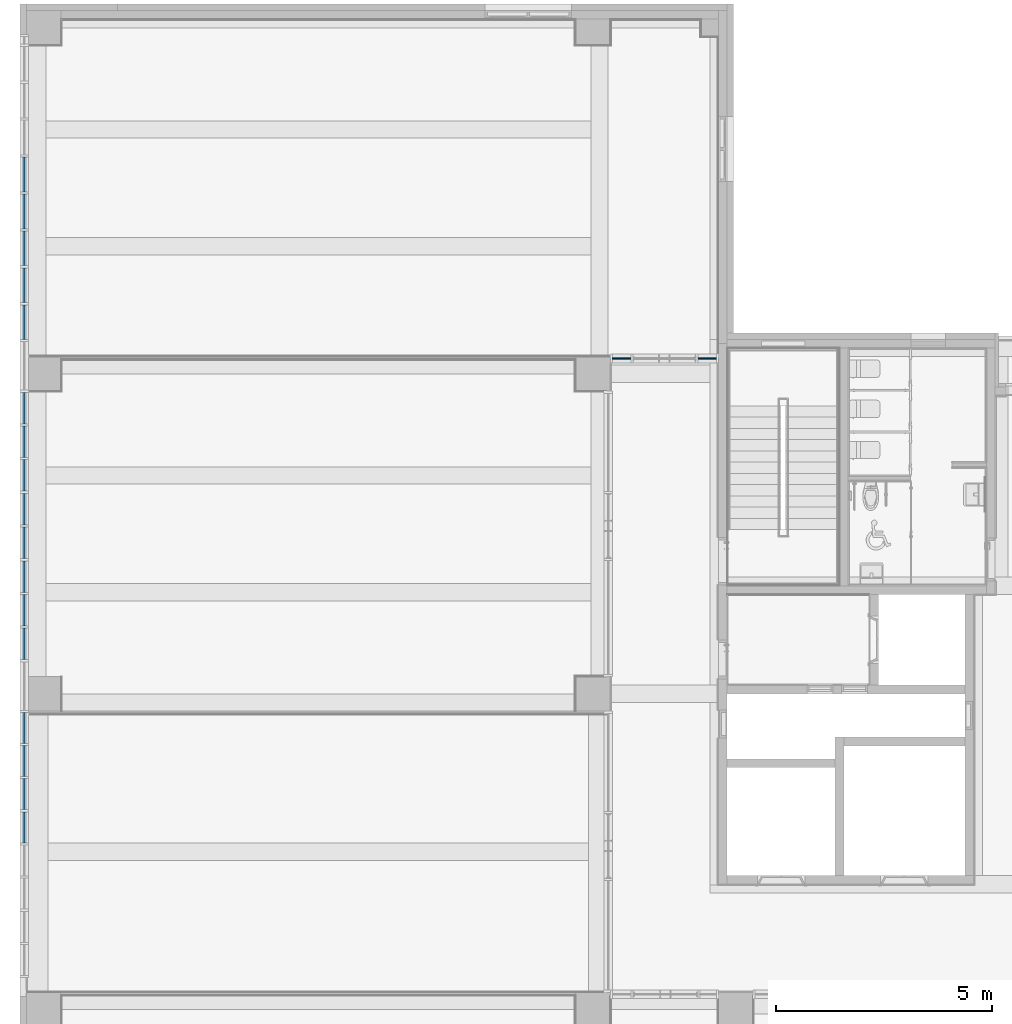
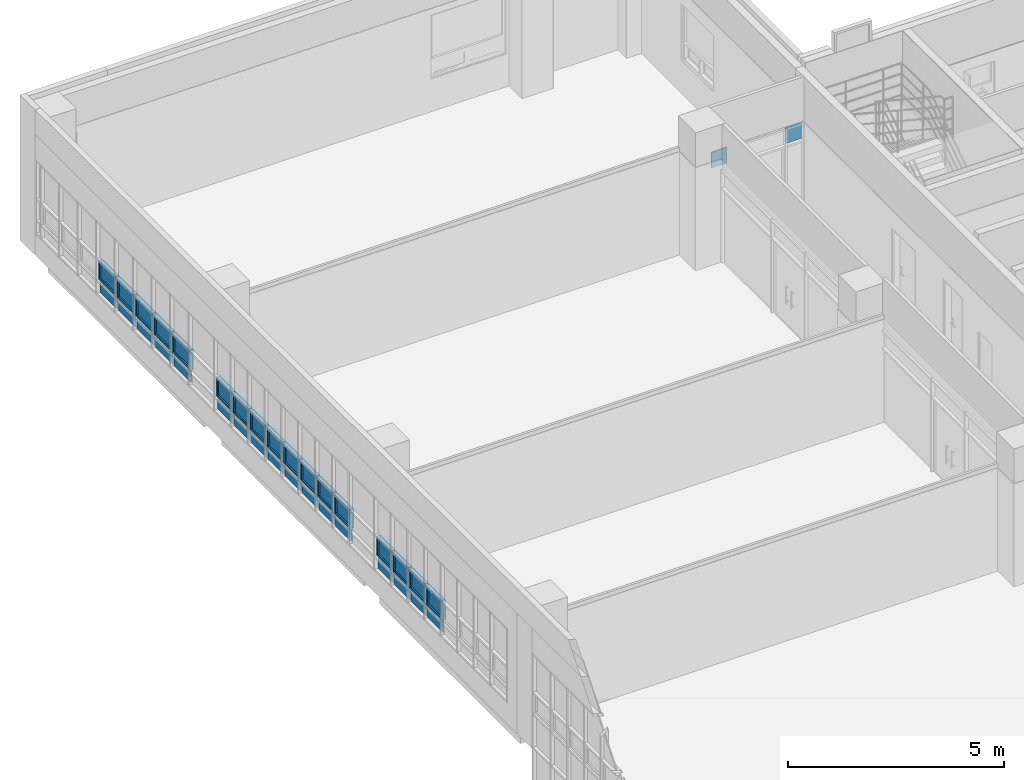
# One storey, part 37 of 81: 36 plates, 2 elements without a shape of their own.
"""IFC2X3 building model written with IfcOpenShell, lengths in millimetres."""

from ifc_helpers import new_model, entity, si_unit, converted_unit, derived_unit, direction, frame, origin, origin_2d_with_axis, place, context, subcontext, project, spatial, polyline, rectangle, outline, extrude, source, transform, mapped, material, material_list, type_object, type_shapes, element, aggregate, save


model = new_model("IFC2X3")

# Units and contexts
model_context = context("Model", 3, precision=0.01, world=origin(), true_north=direction((6.123031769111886e-17, 1.0)))
body_context = subcontext(model_context, "Body", "Model", "MODEL_VIEW")
ifc_project = project(units=[si_unit("LENGTHUNIT", "METRE", prefix="MILLI"), si_unit("AREAUNIT", "SQUARE_METRE"), si_unit("VOLUMEUNIT", "CUBIC_METRE"), converted_unit("PLANEANGLEUNIT", "DEGREE", entity("IfcRatioMeasure", 0.017453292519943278), si_unit("PLANEANGLEUNIT", "RADIAN"), dimensions=[0, 0, 0, 0, 0, 0, 0]), si_unit("MASSUNIT", "GRAM", prefix="KILO"), derived_unit("MASSDENSITYUNIT", [(si_unit("MASSUNIT", "GRAM", prefix="KILO"), 1), (si_unit("LENGTHUNIT", "METRE"), -3)]), derived_unit("MOMENTOFINERTIAUNIT", [(si_unit("LENGTHUNIT", "METRE"), 4)]), si_unit("TIMEUNIT", "SECOND"), si_unit("FREQUENCYUNIT", "HERTZ"), si_unit("THERMODYNAMICTEMPERATUREUNIT", "DEGREE_CELSIUS"), derived_unit("THERMALTRANSMITTANCEUNIT", [(si_unit("MASSUNIT", "GRAM", prefix="KILO"), 1), (si_unit("THERMODYNAMICTEMPERATUREUNIT", "KELVIN"), -1), (si_unit("TIMEUNIT", "SECOND"), -3)]), derived_unit("VOLUMETRICFLOWRATEUNIT", [(si_unit("LENGTHUNIT", "METRE"), 3), (si_unit("TIMEUNIT", "SECOND"), -1)]), derived_unit("MASSFLOWRATEUNIT", [(si_unit("MASSUNIT", "GRAM", prefix="KILO"), 1), (si_unit("TIMEUNIT", "SECOND"), -1)]), derived_unit("ROTATIONALFREQUENCYUNIT", [(si_unit("TIMEUNIT", "SECOND"), -1)]), si_unit("ELECTRICCURRENTUNIT", "AMPERE"), si_unit("ELECTRICVOLTAGEUNIT", "VOLT"), si_unit("POWERUNIT", "WATT"), si_unit("FORCEUNIT", "NEWTON", prefix="KILO"), si_unit("ILLUMINANCEUNIT", "LUX"), si_unit("LUMINOUSFLUXUNIT", "LUMEN"), si_unit("LUMINOUSINTENSITYUNIT", "CANDELA"), derived_unit("USERDEFINED", [(si_unit("MASSUNIT", "GRAM", prefix="KILO"), -1), (si_unit("LENGTHUNIT", "METRE"), -2), (si_unit("TIMEUNIT", "SECOND"), 3), (si_unit("LUMINOUSFLUXUNIT", "LUMEN"), 1)]), derived_unit("SOUNDPOWERUNIT", [(si_unit("MASSUNIT", "GRAM", prefix="KILO"), 1), (si_unit("LENGTHUNIT", "METRE"), 2), (si_unit("TIMEUNIT", "SECOND"), -3)]), derived_unit("SOUNDPRESSUREUNIT", [(si_unit("MASSUNIT", "GRAM", prefix="KILO"), 1), (si_unit("LENGTHUNIT", "METRE"), -1), (si_unit("TIMEUNIT", "SECOND"), -2)]), derived_unit("LINEARVELOCITYUNIT", [(si_unit("LENGTHUNIT", "METRE"), 1), (si_unit("TIMEUNIT", "SECOND"), -1)]), si_unit("PRESSUREUNIT", "PASCAL"), derived_unit("USERDEFINED", [(si_unit("LENGTHUNIT", "METRE"), -2), (si_unit("MASSUNIT", "GRAM", prefix="KILO"), 1), (si_unit("TIMEUNIT", "SECOND"), -2)]), derived_unit("LINEARFORCEUNIT", [(si_unit("MASSUNIT", "GRAM", prefix="KILO"), 1), (si_unit("LENGTHUNIT", "METRE"), 1), (si_unit("TIMEUNIT", "SECOND"), -2), (si_unit("LENGTHUNIT", "METRE"), -1)]), derived_unit("PLANARFORCEUNIT", [(si_unit("MASSUNIT", "GRAM", prefix="KILO"), 1), (si_unit("LENGTHUNIT", "METRE"), 1), (si_unit("TIMEUNIT", "SECOND"), -2), (si_unit("LENGTHUNIT", "METRE"), -2)])], contexts=[model_context])

# Site, building, storey
site_placement = place(None, frame((-14167.972527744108, -657.2125860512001, 0.0)))
site = spatial("IfcSite", under=ifc_project, at=site_placement, Name="Default", CompositionType="ELEMENT")
building_placement = place(site_placement, origin())
building = spatial("IfcBuilding", under=site, at=building_placement, Name="Sample Building", CompositionType="ELEMENT")
storey_placement = place(building_placement, frame((0.0, 0.0, 13400.0)))
storey = spatial("IfcBuildingStorey", under=building, at=storey_placement, Name="지상 4층", CompositionType="ELEMENT", Elevation=13400.00000000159)

# Curtain wall, plates
curtain_wall_type = type_object("IfcCurtainWallType", Name="커튼월:CW112-스테인리스 스틸 커튼월", PredefinedType="NOTDEFINED")
curtain_wall_1_placement = place(storey_placement, frame((0.0, 0.0, -13400.0)))
curtain_wall_1 = element("IfcCurtainWall", 1, at=curtain_wall_1_placement, inside=storey, type_object=curtain_wall_type, Name="커튼월:CW112-스테인리스 스틸 커튼월", ObjectType="커튼월:CW112-스테인리스 스틸 커튼월")
ifc_material_1 = material(Name="KBIMS-유리")
ifc_material_2 = material(Name="KBIMS-알루미늄")
ifc_material_list_1 = material_list([ifc_material_1, ifc_material_2])
ifc_material_list_2 = material_list([ifc_material_1, ifc_material_2])
plate_type_1 = type_object("IfcPlateType", Name="CW410-프로젝트 창:CW410-프로젝트 창 (하부개폐)", PredefinedType="CURTAIN_PANEL", material=ifc_material_list_2)
shared_shape_1 = source(origin(), body_context, "Body", "SweptSolid", [
    extrude(rectangle(XDim=629.0000000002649, YDim=23.999999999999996, at=origin_2d_with_axis()), frame((0.0, -0.04999999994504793, 50.0), z_axis=(0.0, 0.0, 1.0), x_axis=(-1.0, 0.0, 0.0)), (0.0, 0.0, 1.0), 450.0000000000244),
    extrude(outline(polyline([(-364.5000000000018, -275.0), (364.5000000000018, -275.0), (364.5000000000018, 275.0), (-364.5000000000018, 275.0), (-364.5000000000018, -275.0)]), holes=[polyline([(-314.50000000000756, -225.0), (-314.5000000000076, 225.0), (314.5000000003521, 225.0), (314.50000000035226, -225.0), (-314.50000000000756, -225.0)])]), frame((0.0, -50.04999999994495, 275.0), z_axis=(0.0, 1.0, 0.0), x_axis=(1.0, 0.0, 0.0)), (0.0, 0.0, 1.0), 99.99999999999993),
])
type_shapes(plate_type_1, [shared_shape_1])
plate_1_placement = place(curtain_wall_1_placement, frame((14018.57055548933, 26566.317707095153, 14425.0), z_axis=(0.0, 0.0, 1.0), x_axis=(0.0, -1.0, 0.0)))
plate_1 = element("IfcPlate", 2, at=plate_1_placement, type_object=plate_type_1, material=ifc_material_list_1, Name="CW410-프로젝트 창:CW410-프로젝트 창 (하부개폐)", ObjectType="CW410-프로젝트 창:CW410-프로젝트 창 (하부개폐)", context=body_context, shape_type="MappedRepresentation", body=[
    mapped(shared_shape_1, transform((0.0, 0.0, 0.0), scale=1.0)),
])
ifc_material_list_3 = material_list([ifc_material_1, ifc_material_2])
plate_2_placement = place(curtain_wall_1_placement, frame((14018.57055548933, 25787.31770709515, 14425.0), z_axis=(0.0, 0.0, 1.0), x_axis=(0.0, -1.0, 0.0)))
plate_2 = element("IfcPlate", 3, at=plate_2_placement, type_object=plate_type_1, material=ifc_material_list_3, Name="CW410-프로젝트 창:CW410-프로젝트 창 (하부개폐)", ObjectType="CW410-프로젝트 창:CW410-프로젝트 창 (하부개폐)", context=body_context, shape_type="MappedRepresentation", body=[
    mapped(shared_shape_1, transform((0.0, 0.0, 0.0), scale=1.0)),
])
ifc_material_list_4 = material_list([ifc_material_1, ifc_material_2])
plate_3_placement = place(curtain_wall_1_placement, frame((14018.570555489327, 25008.317707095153, 14425.0), z_axis=(0.0, 0.0, 1.0), x_axis=(0.0, -1.0, 0.0)))
plate_3 = element("IfcPlate", 4, at=plate_3_placement, type_object=plate_type_1, material=ifc_material_list_4, Name="CW410-프로젝트 창:CW410-프로젝트 창 (하부개폐)", ObjectType="CW410-프로젝트 창:CW410-프로젝트 창 (하부개폐)", context=body_context, shape_type="MappedRepresentation", body=[
    mapped(shared_shape_1, transform((0.0, 0.0, 0.0), scale=1.0)),
])
ifc_material_list_5 = material_list([ifc_material_1, ifc_material_2])
plate_4_placement = place(curtain_wall_1_placement, frame((14018.570555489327, 24229.317707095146, 14425.0), z_axis=(0.0, 0.0, 1.0), x_axis=(0.0, -1.0, 0.0)))
plate_4 = element("IfcPlate", 5, at=plate_4_placement, type_object=plate_type_1, material=ifc_material_list_5, Name="CW410-프로젝트 창:CW410-프로젝트 창 (하부개폐)", ObjectType="CW410-프로젝트 창:CW410-프로젝트 창 (하부개폐)", context=body_context, shape_type="MappedRepresentation", body=[
    mapped(shared_shape_1, transform((0.0, 0.0, 0.0), scale=1.0)),
])
ifc_material_list_6 = material_list([ifc_material_1, ifc_material_2])
plate_5_placement = place(curtain_wall_1_placement, frame((14018.570555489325, 23450.31770709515, 14425.0), z_axis=(0.0, 0.0, 1.0), x_axis=(0.0, -1.0, 0.0)))
plate_5 = element("IfcPlate", 6, at=plate_5_placement, type_object=plate_type_1, material=ifc_material_list_6, Name="CW410-프로젝트 창:CW410-프로젝트 창 (하부개폐)", ObjectType="CW410-프로젝트 창:CW410-프로젝트 창 (하부개폐)", context=body_context, shape_type="MappedRepresentation", body=[
    mapped(shared_shape_1, transform((0.0, 0.0, 0.0), scale=1.0)),
])
ifc_material_list_7 = material_list([ifc_material_1, ifc_material_2])
plate_6_placement = place(curtain_wall_1_placement, frame((14018.570555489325, 22671.317707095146, 14425.0), z_axis=(0.0, 0.0, 1.0), x_axis=(0.0, -1.0, 0.0)))
plate_6 = element("IfcPlate", 7, at=plate_6_placement, type_object=plate_type_1, material=ifc_material_list_7, Name="CW410-프로젝트 창:CW410-프로젝트 창 (하부개폐)", ObjectType="CW410-프로젝트 창:CW410-프로젝트 창 (하부개폐)", context=body_context, shape_type="MappedRepresentation", body=[
    mapped(shared_shape_1, transform((0.0, 0.0, 0.0), scale=1.0)),
])
ifc_material_list_8 = material_list([ifc_material_1, ifc_material_2])
plate_7_placement = place(curtain_wall_1_placement, frame((14018.570555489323, 21892.31770709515, 14425.0), z_axis=(0.0, 0.0, 1.0), x_axis=(0.0, -1.0, 0.0)))
plate_7 = element("IfcPlate", 8, at=plate_7_placement, type_object=plate_type_1, material=ifc_material_list_8, Name="CW410-프로젝트 창:CW410-프로젝트 창 (하부개폐)", ObjectType="CW410-프로젝트 창:CW410-프로젝트 창 (하부개폐)", context=body_context, shape_type="MappedRepresentation", body=[
    mapped(shared_shape_1, transform((0.0, 0.0, 0.0), scale=1.0)),
])
ifc_material_list_9 = material_list([ifc_material_1, ifc_material_2])
plate_8_placement = place(curtain_wall_1_placement, frame((14018.570555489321, 21113.317707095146, 14425.0), z_axis=(0.0, 0.0, 1.0), x_axis=(0.0, -1.0, 0.0)))
plate_8 = element("IfcPlate", 9, at=plate_8_placement, type_object=plate_type_1, material=ifc_material_list_9, Name="CW410-프로젝트 창:CW410-프로젝트 창 (하부개폐)", ObjectType="CW410-프로젝트 창:CW410-프로젝트 창 (하부개폐)", context=body_context, shape_type="MappedRepresentation", body=[
    mapped(shared_shape_1, transform((0.0, 0.0, 0.0), scale=1.0)),
])
ifc_material_3 = material(Name="KBIMS-로이유리(코팅)")
plate_type_2 = type_object("IfcPlateType", Name="CW300-THK24.Low-e coating glass:CW300-THK24.Low-e coating glass", PredefinedType="CURTAIN_PANEL", material=ifc_material_3)
shared_shape_2 = source(origin(), body_context, "Body", "SweptSolid", [
    extrude(rectangle(XDim=803.5000000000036, YDim=24.000000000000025, at=origin_2d_with_axis()), frame((0.0, 0.0, 0.0), z_axis=(0.0, 0.0, 1.0), x_axis=(-1.0, 0.0, 0.0)), (0.0, 0.0, 1.0), 324.9999999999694),
])
type_shapes(plate_type_2, [shared_shape_2])
plate_9_placement = place(curtain_wall_1_placement, frame((14018.570555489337, 31966.56770709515, 14050.0), z_axis=(0.0, 0.0, 1.0), x_axis=(0.0, -1.0, 0.0)))
plate_9 = element("IfcPlate", 10, at=plate_9_placement, type_object=plate_type_2, material=ifc_material_3, Name="CW300-THK24.Low-e coating glass:CW300-THK24.Low-e coating glass", ObjectType="CW300-THK24.Low-e coating glass:CW300-THK24.Low-e coating glass", context=body_context, shape_type="MappedRepresentation", body=[
    mapped(shared_shape_2, transform((0.0, 0.0, 0.0), scale=1.0)),
])
plate_10_placement = place(curtain_wall_1_placement, frame((14018.570555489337, 31113.067707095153, 14050.0), z_axis=(0.0, 0.0, 1.0), x_axis=(0.0, -1.0, 0.0)))
plate_10 = element("IfcPlate", 11, at=plate_10_placement, type_object=plate_type_2, material=ifc_material_3, Name="CW300-THK24.Low-e coating glass:CW300-THK24.Low-e coating glass", ObjectType="CW300-THK24.Low-e coating glass:CW300-THK24.Low-e coating glass", context=body_context, shape_type="MappedRepresentation", body=[
    mapped(shared_shape_2, transform((0.0, 0.0, 0.0), scale=1.0)),
])
plate_11_placement = place(curtain_wall_1_placement, frame((14018.570555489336, 30259.56770709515, 14050.0), z_axis=(0.0, 0.0, 1.0), x_axis=(0.0, -1.0, 0.0)))
plate_11 = element("IfcPlate", 12, at=plate_11_placement, type_object=plate_type_2, material=ifc_material_3, Name="CW300-THK24.Low-e coating glass:CW300-THK24.Low-e coating glass", ObjectType="CW300-THK24.Low-e coating glass:CW300-THK24.Low-e coating glass", context=body_context, shape_type="MappedRepresentation", body=[
    mapped(shared_shape_2, transform((0.0, 0.0, 0.0), scale=1.0)),
])
plate_12_placement = place(curtain_wall_1_placement, frame((14018.570555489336, 29406.067707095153, 14050.0), z_axis=(0.0, 0.0, 1.0), x_axis=(0.0, -1.0, 0.0)))
plate_12 = element("IfcPlate", 13, at=plate_12_placement, type_object=plate_type_2, material=ifc_material_3, Name="CW300-THK24.Low-e coating glass:CW300-THK24.Low-e coating glass", ObjectType="CW300-THK24.Low-e coating glass:CW300-THK24.Low-e coating glass", context=body_context, shape_type="MappedRepresentation", body=[
    mapped(shared_shape_2, transform((0.0, 0.0, 0.0), scale=1.0)),
])
plate_13_placement = place(curtain_wall_1_placement, frame((14018.570555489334, 28552.567707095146, 14050.0), z_axis=(0.0, 0.0, 1.0), x_axis=(0.0, -1.0, 0.0)))
plate_13 = element("IfcPlate", 14, at=plate_13_placement, type_object=plate_type_2, material=ifc_material_3, Name="CW300-THK24.Low-e coating glass:CW300-THK24.Low-e coating glass", ObjectType="CW300-THK24.Low-e coating glass:CW300-THK24.Low-e coating glass", context=body_context, shape_type="MappedRepresentation", body=[
    mapped(shared_shape_2, transform((0.0, 0.0, 0.0), scale=1.0)),
])
plate_type_3 = type_object("IfcPlateType", Name="CW300-THK24.Low-e coating glass:CW300-THK24.Low-e coating glass", PredefinedType="CURTAIN_PANEL", material=ifc_material_3)
shared_shape_3 = source(origin(), body_context, "Body", "SweptSolid", [
    extrude(rectangle(XDim=729.0000000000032, YDim=24.000000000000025, at=origin_2d_with_axis()), frame((0.0, 0.0, 0.0), z_axis=(0.0, 0.0, 1.0), x_axis=(-1.0, 0.0, 0.0)), (0.0, 0.0, 1.0), 324.9999999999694),
])
type_shapes(plate_type_3, [shared_shape_3])
plate_14_placement = place(curtain_wall_1_placement, frame((14018.57055548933, 26566.317707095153, 14050.0), z_axis=(0.0, 0.0, 1.0), x_axis=(0.0, -1.0, 0.0)))
plate_14 = element("IfcPlate", 15, at=plate_14_placement, type_object=plate_type_3, material=ifc_material_3, Name="CW300-THK24.Low-e coating glass:CW300-THK24.Low-e coating glass", ObjectType="CW300-THK24.Low-e coating glass:CW300-THK24.Low-e coating glass", context=body_context, shape_type="MappedRepresentation", body=[
    mapped(shared_shape_3, transform((0.0, 0.0, 0.0), scale=1.0)),
])
plate_15_placement = place(curtain_wall_1_placement, frame((14018.57055548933, 25787.31770709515, 14050.0), z_axis=(0.0, 0.0, 1.0), x_axis=(0.0, -1.0, 0.0)))
plate_15 = element("IfcPlate", 16, at=plate_15_placement, type_object=plate_type_3, material=ifc_material_3, Name="CW300-THK24.Low-e coating glass:CW300-THK24.Low-e coating glass", ObjectType="CW300-THK24.Low-e coating glass:CW300-THK24.Low-e coating glass", context=body_context, shape_type="MappedRepresentation", body=[
    mapped(shared_shape_3, transform((0.0, 0.0, 0.0), scale=1.0)),
])
plate_16_placement = place(curtain_wall_1_placement, frame((14018.570555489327, 25008.317707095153, 14050.0), z_axis=(0.0, 0.0, 1.0), x_axis=(0.0, -1.0, 0.0)))
plate_16 = element("IfcPlate", 17, at=plate_16_placement, type_object=plate_type_3, material=ifc_material_3, Name="CW300-THK24.Low-e coating glass:CW300-THK24.Low-e coating glass", ObjectType="CW300-THK24.Low-e coating glass:CW300-THK24.Low-e coating glass", context=body_context, shape_type="MappedRepresentation", body=[
    mapped(shared_shape_3, transform((0.0, 0.0, 0.0), scale=1.0)),
])
plate_17_placement = place(curtain_wall_1_placement, frame((14018.570555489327, 24229.317707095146, 14050.0), z_axis=(0.0, 0.0, 1.0), x_axis=(0.0, -1.0, 0.0)))
plate_17 = element("IfcPlate", 18, at=plate_17_placement, type_object=plate_type_3, material=ifc_material_3, Name="CW300-THK24.Low-e coating glass:CW300-THK24.Low-e coating glass", ObjectType="CW300-THK24.Low-e coating glass:CW300-THK24.Low-e coating glass", context=body_context, shape_type="MappedRepresentation", body=[
    mapped(shared_shape_3, transform((0.0, 0.0, 0.0), scale=1.0)),
])
plate_18_placement = place(curtain_wall_1_placement, frame((14018.570555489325, 23450.31770709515, 14050.0), z_axis=(0.0, 0.0, 1.0), x_axis=(0.0, -1.0, 0.0)))
plate_18 = element("IfcPlate", 19, at=plate_18_placement, type_object=plate_type_3, material=ifc_material_3, Name="CW300-THK24.Low-e coating glass:CW300-THK24.Low-e coating glass", ObjectType="CW300-THK24.Low-e coating glass:CW300-THK24.Low-e coating glass", context=body_context, shape_type="MappedRepresentation", body=[
    mapped(shared_shape_3, transform((0.0, 0.0, 0.0), scale=1.0)),
])
plate_19_placement = place(curtain_wall_1_placement, frame((14018.570555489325, 22671.317707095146, 14050.0), z_axis=(0.0, 0.0, 1.0), x_axis=(0.0, -1.0, 0.0)))
plate_19 = element("IfcPlate", 20, at=plate_19_placement, type_object=plate_type_3, material=ifc_material_3, Name="CW300-THK24.Low-e coating glass:CW300-THK24.Low-e coating glass", ObjectType="CW300-THK24.Low-e coating glass:CW300-THK24.Low-e coating glass", context=body_context, shape_type="MappedRepresentation", body=[
    mapped(shared_shape_3, transform((0.0, 0.0, 0.0), scale=1.0)),
])
plate_20_placement = place(curtain_wall_1_placement, frame((14018.570555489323, 21892.31770709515, 14050.0), z_axis=(0.0, 0.0, 1.0), x_axis=(0.0, -1.0, 0.0)))
plate_20 = element("IfcPlate", 21, at=plate_20_placement, type_object=plate_type_3, material=ifc_material_3, Name="CW300-THK24.Low-e coating glass:CW300-THK24.Low-e coating glass", ObjectType="CW300-THK24.Low-e coating glass:CW300-THK24.Low-e coating glass", context=body_context, shape_type="MappedRepresentation", body=[
    mapped(shared_shape_3, transform((0.0, 0.0, 0.0), scale=1.0)),
])
plate_21_placement = place(curtain_wall_1_placement, frame((14018.570555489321, 21113.317707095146, 14050.0), z_axis=(0.0, 0.0, 1.0), x_axis=(0.0, -1.0, 0.0)))
plate_21 = element("IfcPlate", 22, at=plate_21_placement, type_object=plate_type_3, material=ifc_material_3, Name="CW300-THK24.Low-e coating glass:CW300-THK24.Low-e coating glass", ObjectType="CW300-THK24.Low-e coating glass:CW300-THK24.Low-e coating glass", context=body_context, shape_type="MappedRepresentation", body=[
    mapped(shared_shape_3, transform((0.0, 0.0, 0.0), scale=1.0)),
])
plate_type_4 = type_object("IfcPlateType", Name="CW300-THK24.Low-e coating glass:CW300-THK24.Low-e coating glass", PredefinedType="CURTAIN_PANEL", material=ifc_material_3)
shared_shape_4 = source(origin(), body_context, "Body", "SweptSolid", [
    extrude(rectangle(XDim=716.4999999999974, YDim=24.000000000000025, at=origin_2d_with_axis()), frame((0.0, 0.0, 0.0), z_axis=(0.0, 0.0, 1.0), x_axis=(-1.0, 0.0, 0.0)), (0.0, 0.0, 1.0), 324.9999999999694),
])
type_shapes(plate_type_4, [shared_shape_4])
plate_22_placement = place(curtain_wall_1_placement, frame((14018.57055548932, 19170.56770709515, 14050.0), z_axis=(0.0, 0.0, 1.0), x_axis=(0.0, -1.0, 0.0)))
plate_22 = element("IfcPlate", 23, at=plate_22_placement, type_object=plate_type_4, material=ifc_material_3, Name="CW300-THK24.Low-e coating glass:CW300-THK24.Low-e coating glass", ObjectType="CW300-THK24.Low-e coating glass:CW300-THK24.Low-e coating glass", context=body_context, shape_type="MappedRepresentation", body=[
    mapped(shared_shape_4, transform((0.0, 0.0, 0.0), scale=1.0)),
])
plate_23_placement = place(curtain_wall_1_placement, frame((14018.57055548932, 18404.06770709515, 14050.0), z_axis=(0.0, 0.0, 1.0), x_axis=(0.0, -1.0, 0.0)))
plate_23 = element("IfcPlate", 24, at=plate_23_placement, type_object=plate_type_4, material=ifc_material_3, Name="CW300-THK24.Low-e coating glass:CW300-THK24.Low-e coating glass", ObjectType="CW300-THK24.Low-e coating glass:CW300-THK24.Low-e coating glass", context=body_context, shape_type="MappedRepresentation", body=[
    mapped(shared_shape_4, transform((0.0, 0.0, 0.0), scale=1.0)),
])
plate_24_placement = place(curtain_wall_1_placement, frame((14018.570555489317, 17637.56770709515, 14050.0), z_axis=(0.0, 0.0, 1.0), x_axis=(0.0, -1.0, 0.0)))
plate_24 = element("IfcPlate", 25, at=plate_24_placement, type_object=plate_type_4, material=ifc_material_3, Name="CW300-THK24.Low-e coating glass:CW300-THK24.Low-e coating glass", ObjectType="CW300-THK24.Low-e coating glass:CW300-THK24.Low-e coating glass", context=body_context, shape_type="MappedRepresentation", body=[
    mapped(shared_shape_4, transform((0.0, 0.0, 0.0), scale=1.0)),
])
plate_25_placement = place(curtain_wall_1_placement, frame((14018.570555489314, 16871.06770709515, 14050.0), z_axis=(0.0, 0.0, 1.0), x_axis=(0.0, -1.0, 0.0)))
plate_25 = element("IfcPlate", 26, at=plate_25_placement, type_object=plate_type_4, material=ifc_material_3, Name="CW300-THK24.Low-e coating glass:CW300-THK24.Low-e coating glass", ObjectType="CW300-THK24.Low-e coating glass:CW300-THK24.Low-e coating glass", context=body_context, shape_type="MappedRepresentation", body=[
    mapped(shared_shape_4, transform((0.0, 0.0, 0.0), scale=1.0)),
])
ifc_material_list_10 = material_list([ifc_material_1, ifc_material_2])
ifc_material_list_11 = material_list([ifc_material_1, ifc_material_2])
plate_type_5 = type_object("IfcPlateType", Name="CW410-프로젝트 창:CW410-프로젝트 창 (하부개폐)", PredefinedType="CURTAIN_PANEL", material=ifc_material_list_11)
shared_shape_5 = source(origin(), body_context, "Body", "SweptSolid", [
    extrude(rectangle(XDim=703.5000000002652, YDim=23.999999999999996, at=origin_2d_with_axis()), frame((0.0, -0.04999999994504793, 50.0), z_axis=(0.0, 0.0, 1.0), x_axis=(-1.0, 0.0, 0.0)), (0.0, 0.0, 1.0), 450.00000000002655),
    extrude(outline(polyline([(-401.750000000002, -275.0), (401.750000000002, -275.0), (401.750000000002, 275.0), (-401.750000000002, 275.0), (-401.750000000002, -275.0)]), holes=[polyline([(-351.75000000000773, -225.0), (-351.7500000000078, 225.0), (351.7500000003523, 225.0), (351.75000000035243, -225.0), (-351.75000000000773, -225.0)])]), frame((0.0, -50.04999999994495, 275.0), z_axis=(0.0, 1.0, 0.0), x_axis=(1.0, 0.0, 0.0)), (0.0, 0.0, 1.0), 99.99999999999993),
])
type_shapes(plate_type_5, [shared_shape_5])
plate_26_placement = place(curtain_wall_1_placement, frame((14018.570555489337, 31966.56770709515, 14425.0), z_axis=(0.0, 0.0, 1.0), x_axis=(0.0, -1.0, 0.0)))
plate_26 = element("IfcPlate", 27, at=plate_26_placement, type_object=plate_type_5, material=ifc_material_list_10, Name="CW410-프로젝트 창:CW410-프로젝트 창 (하부개폐)", ObjectType="CW410-프로젝트 창:CW410-프로젝트 창 (하부개폐)", context=body_context, shape_type="MappedRepresentation", body=[
    mapped(shared_shape_5, transform((0.0, 0.0, 0.0), scale=1.0)),
])
ifc_material_list_12 = material_list([ifc_material_1, ifc_material_2])
plate_27_placement = place(curtain_wall_1_placement, frame((14018.570555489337, 31113.067707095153, 14425.0), z_axis=(0.0, 0.0, 1.0), x_axis=(0.0, -1.0, 0.0)))
plate_27 = element("IfcPlate", 28, at=plate_27_placement, type_object=plate_type_5, material=ifc_material_list_12, Name="CW410-프로젝트 창:CW410-프로젝트 창 (하부개폐)", ObjectType="CW410-프로젝트 창:CW410-프로젝트 창 (하부개폐)", context=body_context, shape_type="MappedRepresentation", body=[
    mapped(shared_shape_5, transform((0.0, 0.0, 0.0), scale=1.0)),
])
ifc_material_list_13 = material_list([ifc_material_1, ifc_material_2])
plate_28_placement = place(curtain_wall_1_placement, frame((14018.570555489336, 30259.56770709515, 14425.0), z_axis=(0.0, 0.0, 1.0), x_axis=(0.0, -1.0, 0.0)))
plate_28 = element("IfcPlate", 29, at=plate_28_placement, type_object=plate_type_5, material=ifc_material_list_13, Name="CW410-프로젝트 창:CW410-프로젝트 창 (하부개폐)", ObjectType="CW410-프로젝트 창:CW410-프로젝트 창 (하부개폐)", context=body_context, shape_type="MappedRepresentation", body=[
    mapped(shared_shape_5, transform((0.0, 0.0, 0.0), scale=1.0)),
])
ifc_material_list_14 = material_list([ifc_material_1, ifc_material_2])
plate_29_placement = place(curtain_wall_1_placement, frame((14018.570555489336, 29406.067707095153, 14425.0), z_axis=(0.0, 0.0, 1.0), x_axis=(0.0, -1.0, 0.0)))
plate_29 = element("IfcPlate", 30, at=plate_29_placement, type_object=plate_type_5, material=ifc_material_list_14, Name="CW410-프로젝트 창:CW410-프로젝트 창 (하부개폐)", ObjectType="CW410-프로젝트 창:CW410-프로젝트 창 (하부개폐)", context=body_context, shape_type="MappedRepresentation", body=[
    mapped(shared_shape_5, transform((0.0, 0.0, 0.0), scale=1.0)),
])
ifc_material_list_15 = material_list([ifc_material_1, ifc_material_2])
plate_30_placement = place(curtain_wall_1_placement, frame((14018.570555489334, 28552.567707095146, 14425.0), z_axis=(0.0, 0.0, 1.0), x_axis=(0.0, -1.0, 0.0)))
plate_30 = element("IfcPlate", 31, at=plate_30_placement, type_object=plate_type_5, material=ifc_material_list_15, Name="CW410-프로젝트 창:CW410-프로젝트 창 (하부개폐)", ObjectType="CW410-프로젝트 창:CW410-프로젝트 창 (하부개폐)", context=body_context, shape_type="MappedRepresentation", body=[
    mapped(shared_shape_5, transform((0.0, 0.0, 0.0), scale=1.0)),
])
ifc_material_list_16 = material_list([ifc_material_1, ifc_material_2])
ifc_material_list_17 = material_list([ifc_material_1, ifc_material_2])
plate_type_6 = type_object("IfcPlateType", Name="CW410-프로젝트 창:CW410-프로젝트 창 (하부개폐)", PredefinedType="CURTAIN_PANEL", material=ifc_material_list_17)
shared_shape_6 = source(origin(), body_context, "Body", "SweptSolid", [
    extrude(rectangle(XDim=616.500000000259, YDim=23.999999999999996, at=origin_2d_with_axis()), frame((0.0, -0.04999999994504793, 50.0), z_axis=(0.0, 0.0, 1.0), x_axis=(-1.0, 0.0, 0.0)), (0.0, 0.0, 1.0), 450.00000000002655),
    extrude(outline(polyline([(-358.2499999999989, -275.0), (358.2499999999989, -275.0), (358.2499999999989, 275.0), (-358.2499999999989, 275.0), (-358.2499999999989, -275.0)]), holes=[polyline([(-308.25000000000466, -225.0), (-308.2500000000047, 225.0), (308.2500000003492, 225.0), (308.25000000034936, -225.0), (-308.25000000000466, -225.0)])]), frame((0.0, -50.04999999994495, 275.0), z_axis=(0.0, 1.0, 0.0), x_axis=(1.0, 0.0, 0.0)), (0.0, 0.0, 1.0), 99.99999999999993),
])
type_shapes(plate_type_6, [shared_shape_6])
plate_31_placement = place(curtain_wall_1_placement, frame((14018.57055548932, 19170.56770709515, 14425.0), z_axis=(0.0, 0.0, 1.0), x_axis=(0.0, -1.0, 0.0)))
plate_31 = element("IfcPlate", 32, at=plate_31_placement, type_object=plate_type_6, material=ifc_material_list_16, Name="CW410-프로젝트 창:CW410-프로젝트 창 (하부개폐)", ObjectType="CW410-프로젝트 창:CW410-프로젝트 창 (하부개폐)", context=body_context, shape_type="MappedRepresentation", body=[
    mapped(shared_shape_6, transform((0.0, 0.0, 0.0), scale=1.0)),
])
ifc_material_list_18 = material_list([ifc_material_1, ifc_material_2])
plate_32_placement = place(curtain_wall_1_placement, frame((14018.57055548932, 18404.06770709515, 14425.0), z_axis=(0.0, 0.0, 1.0), x_axis=(0.0, -1.0, 0.0)))
plate_32 = element("IfcPlate", 33, at=plate_32_placement, type_object=plate_type_6, material=ifc_material_list_18, Name="CW410-프로젝트 창:CW410-프로젝트 창 (하부개폐)", ObjectType="CW410-프로젝트 창:CW410-프로젝트 창 (하부개폐)", context=body_context, shape_type="MappedRepresentation", body=[
    mapped(shared_shape_6, transform((0.0, 0.0, 0.0), scale=1.0)),
])
ifc_material_list_19 = material_list([ifc_material_1, ifc_material_2])
plate_33_placement = place(curtain_wall_1_placement, frame((14018.570555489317, 17637.56770709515, 14425.0), z_axis=(0.0, 0.0, 1.0), x_axis=(0.0, -1.0, 0.0)))
plate_33 = element("IfcPlate", 34, at=plate_33_placement, type_object=plate_type_6, material=ifc_material_list_19, Name="CW410-프로젝트 창:CW410-프로젝트 창 (하부개폐)", ObjectType="CW410-프로젝트 창:CW410-프로젝트 창 (하부개폐)", context=body_context, shape_type="MappedRepresentation", body=[
    mapped(shared_shape_6, transform((0.0, 0.0, 0.0), scale=1.0)),
])
ifc_material_list_20 = material_list([ifc_material_1, ifc_material_2])
plate_34_placement = place(curtain_wall_1_placement, frame((14018.570555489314, 16871.06770709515, 14425.0), z_axis=(0.0, 0.0, 1.0), x_axis=(0.0, -1.0, 0.0)))
plate_34 = element("IfcPlate", 35, at=plate_34_placement, type_object=plate_type_6, material=ifc_material_list_20, Name="CW410-프로젝트 창:CW410-프로젝트 창 (하부개폐)", ObjectType="CW410-프로젝트 창:CW410-프로젝트 창 (하부개폐)", context=body_context, shape_type="MappedRepresentation", body=[
    mapped(shared_shape_6, transform((0.0, 0.0, 0.0), scale=1.0)),
])
aggregate(curtain_wall_1, [plate_9, plate_10, plate_11, plate_12, plate_13, plate_14, plate_15, plate_16, plate_17, plate_18, plate_19, plate_20, plate_21, plate_22, plate_23, plate_24, plate_25, plate_26, plate_27, plate_28, plate_29, plate_30, plate_1, plate_2, plate_3, plate_4, plate_5, plate_6, plate_7, plate_8, plate_31, plate_32, plate_33, plate_34])

curtain_wall_2_placement = place(storey_placement, frame((0.0, 0.0, -13400.0)))
curtain_wall_2 = element("IfcCurtainWall", 36, at=curtain_wall_2_placement, inside=storey, type_object=curtain_wall_type, Name="커튼월:CW112-스테인리스 스틸 커튼월", ObjectType="커튼월:CW112-스테인리스 스틸 커튼월")
plate_type_7 = type_object("IfcPlateType", Name="CW300-THK24.Low-e coating glass:CW300-THK24.Low-e coating glass", PredefinedType="CURTAIN_PANEL", material=ifc_material_3)
shared_shape_7 = source(origin(), body_context, "Body", "SweptSolid", [
    extrude(rectangle(XDim=426.8727559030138, YDim=24.000000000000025, at=origin_2d_with_axis()), frame((0.0, 0.0, 0.0), z_axis=(0.0, 0.0, 1.0), x_axis=(-1.0, 0.0, 0.0)), (0.0, 0.0, 1.0), 444.9999999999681),
])
type_shapes(plate_type_7, [shared_shape_7])
plate_35_placement = place(curtain_wall_2_placement, frame((29804.527383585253, 27712.17793519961, 15605.0), z_axis=(0.0, 0.0, 1.0), x_axis=(-1.0, 0.0, 0.0)))
plate_35 = element("IfcPlate", 37, at=plate_35_placement, type_object=plate_type_7, material=ifc_material_3, Name="CW300-THK24.Low-e coating glass:CW300-THK24.Low-e coating glass", ObjectType="CW300-THK24.Low-e coating glass:CW300-THK24.Low-e coating glass", context=body_context, shape_type="MappedRepresentation", body=[
    mapped(shared_shape_7, transform((0.0, 0.0, 0.0), scale=1.0)),
])
plate_type_8 = type_object("IfcPlateType", Name="CW300-THK24.Low-e coating glass:CW300-THK24.Low-e coating glass", PredefinedType="CURTAIN_PANEL", material=ifc_material_3)
shared_shape_8 = source(origin(), body_context, "Body", "SweptSolid", [
    extrude(rectangle(XDim=423.1272440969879, YDim=24.000000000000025, at=origin_2d_with_axis()), frame((0.0, 0.0, 0.0), z_axis=(0.0, 0.0, 1.0), x_axis=(-1.0, 0.0, 0.0)), (0.0, 0.0, 1.0), 444.9999999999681),
])
type_shapes(plate_type_8, [shared_shape_8])
plate_36_placement = place(curtain_wall_2_placement, frame((27829.52738358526, 27712.177935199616, 15605.0), z_axis=(0.0, 0.0, 1.0), x_axis=(-1.0, 0.0, 0.0)))
plate_36 = element("IfcPlate", 38, at=plate_36_placement, type_object=plate_type_8, material=ifc_material_3, Name="CW300-THK24.Low-e coating glass:CW300-THK24.Low-e coating glass", ObjectType="CW300-THK24.Low-e coating glass:CW300-THK24.Low-e coating glass", context=body_context, shape_type="MappedRepresentation", body=[
    mapped(shared_shape_8, transform((0.0, 0.0, 0.0), scale=1.0)),
])
aggregate(curtain_wall_2, [plate_35, plate_36])

save(model, "model.ifc")
